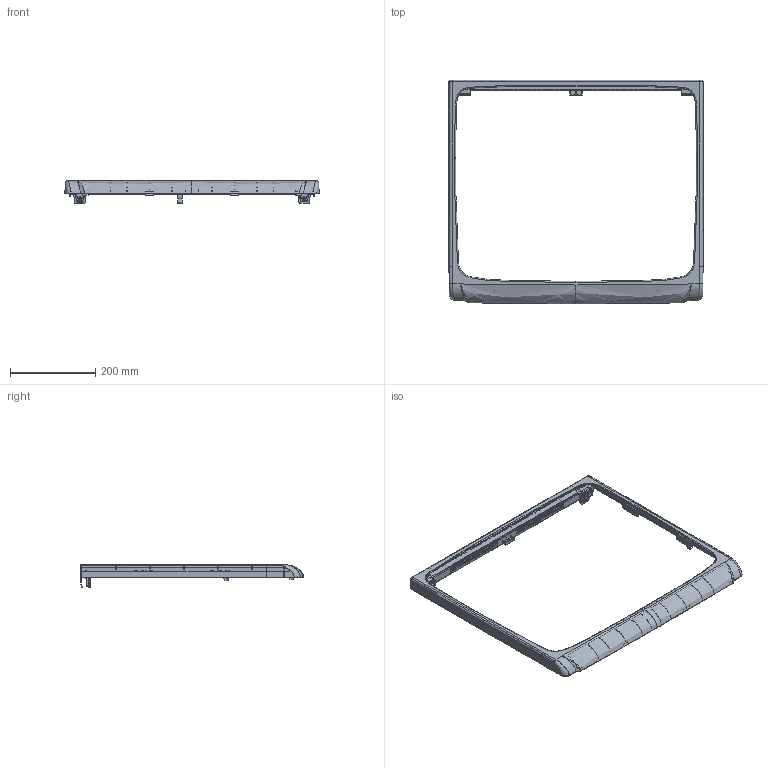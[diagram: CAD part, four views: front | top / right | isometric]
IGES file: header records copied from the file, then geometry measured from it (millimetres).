
Start section: Comment
Global section: file name: 148037193.igs; native system:  By UGS Corp.; preprocessor: XPlus GENERIC/IGES 3.0; author: Author; organization: Title; date: 20080207.151637; units: millimetre
Bounding box: 594.99 x 523.37 x 53 mm (x, y, z)
Surface area: 346167.9 mm2 (no closed solid volume)
Topology: 0 solids, 0 shells, 2041 faces, 12754 edges, 12661 vertices
Faces by surface type: bspline 2041
